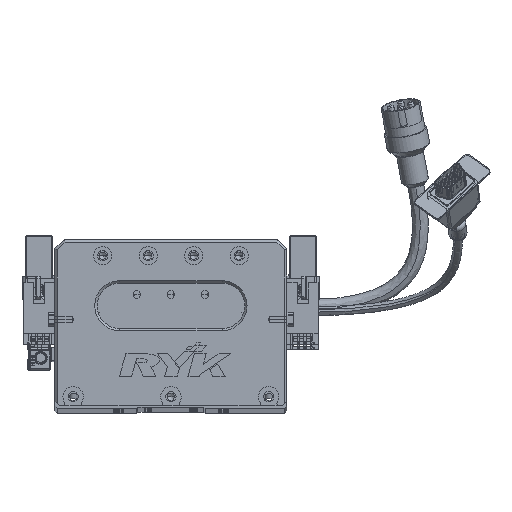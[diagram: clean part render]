
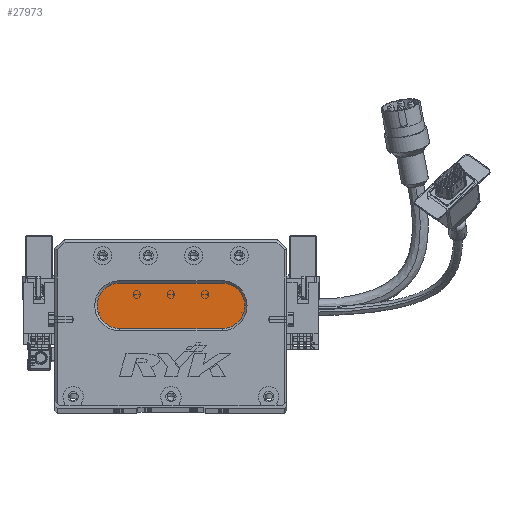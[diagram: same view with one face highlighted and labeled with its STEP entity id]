
A CAD part, top view. The second image highlights one B-rep face of the part: STEP entity #27973.
In plain terms, the highlighted planar face has unit normal (0, 0, 1) as drawn and (0, 0, -1) by its records, which use the part's own axes.
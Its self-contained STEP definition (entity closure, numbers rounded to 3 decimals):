
#2491 = ORIENTED_EDGE ( 'NONE', *, *, #64575, .T. ) ;
#3220 = EDGE_CURVE ( 'NONE', #54187, #25655, #37867, .T. ) ;
#3785 = CARTESIAN_POINT ( 'NONE',  ( 28.5, 54., 13. ) ) ;
#4208 = EDGE_CURVE ( 'NONE', #11865, #8628, #10377, .T. ) ;
#4753 = DIRECTION ( 'NONE',  ( -1., 0., 0. ) ) ;
#6201 = ORIENTED_EDGE ( 'NONE', *, *, #4208, .T. ) ;
#6649 = DIRECTION ( 'NONE',  ( -1., 0., 0. ) ) ;
#7263 = CARTESIAN_POINT ( 'NONE',  ( 18.5, 44., 13. ) ) ;
#8628 = VERTEX_POINT ( 'NONE', #7263 ) ;
#10377 = CIRCLE ( 'NONE', #56024, 10. ) ;
#10993 = CARTESIAN_POINT ( 'NONE',  ( 73.5, 34., 13. ) ) ;
#11865 = VERTEX_POINT ( 'NONE', #29756 ) ;
#12495 = CARTESIAN_POINT ( 'NONE',  ( 73.5, 44., 13. ) ) ;
#12564 = AXIS2_PLACEMENT_3D ( 'NONE', #57538, #52339, #12986 ) ;
#12986 = DIRECTION ( 'NONE',  ( -1., 0., 0. ) ) ;
#16668 = DIRECTION ( 'NONE',  ( -1., 0., 0. ) ) ;
#17178 = AXIS2_PLACEMENT_3D ( 'NONE', #38127, #32940, #4753 ) ;
#22729 = DIRECTION ( 'NONE',  ( 0., 0., -1. ) ) ;
#22792 = CIRCLE ( 'NONE', #12564, 10. ) ;
#23403 = EDGE_LOOP ( 'NONE', ( #48031, #2491, #6201, #25432, #64924 ) ) ;
#23715 = CARTESIAN_POINT ( 'NONE',  ( 28.5, 44., 13. ) ) ;
#25432 = ORIENTED_EDGE ( 'NONE', *, *, #71638, .T. ) ;
#25655 = VERTEX_POINT ( 'NONE', #56354 ) ;
#27973 = ADVANCED_FACE ( 'NONE', ( #35045 ), #61192, .T. ) ;
#29756 = CARTESIAN_POINT ( 'NONE',  ( 28.5, 34., 13. ) ) ;
#32940 = DIRECTION ( 'NONE',  ( 0., 0., -1. ) ) ;
#35045 = FACE_OUTER_BOUND ( 'NONE', #23403, .T. ) ;
#37756 = CARTESIAN_POINT ( 'NONE',  ( 73.5, 54., 13. ) ) ;
#37867 = CIRCLE ( 'NONE', #52654, 10. ) ;
#38127 = CARTESIAN_POINT ( 'NONE',  ( 73.5, 44., 13. ) ) ;
#40416 = EDGE_CURVE ( 'NONE', #69444, #54187, #70992, .T. ) ;
#40944 = DIRECTION ( 'NONE',  ( -1., 0., 0. ) ) ;
#41432 = DIRECTION ( 'NONE',  ( 0., 0., -1. ) ) ;
#44475 = VECTOR ( 'NONE', #49413, 1000. ) ;
#46643 = CARTESIAN_POINT ( 'NONE',  ( 73.5, 54., 13. ) ) ;
#48031 = ORIENTED_EDGE ( 'NONE', *, *, #3220, .T. ) ;
#49413 = DIRECTION ( 'NONE',  ( 1., 0., 0. ) ) ;
#52339 = DIRECTION ( 'NONE',  ( 0., 0., -1. ) ) ;
#52654 = AXIS2_PLACEMENT_3D ( 'NONE', #12495, #41432, #40944 ) ;
#54187 = VERTEX_POINT ( 'NONE', #46643 ) ;
#56024 = AXIS2_PLACEMENT_3D ( 'NONE', #23715, #22729, #6649 ) ;
#56354 = CARTESIAN_POINT ( 'NONE',  ( 73.5, 34., 13. ) ) ;
#57538 = CARTESIAN_POINT ( 'NONE',  ( 28.5, 44., 13. ) ) ;
#58259 = VECTOR ( 'NONE', #16668, 1000. ) ;
#61192 = PLANE ( 'NONE',  #17178 ) ;
#64575 = EDGE_CURVE ( 'NONE', #25655, #11865, #70588, .T. ) ;
#64924 = ORIENTED_EDGE ( 'NONE', *, *, #40416, .T. ) ;
#69444 = VERTEX_POINT ( 'NONE', #3785 ) ;
#70588 = LINE ( 'NONE', #10993, #58259 ) ;
#70992 = LINE ( 'NONE', #37756, #44475 ) ;
#71638 = EDGE_CURVE ( 'NONE', #8628, #69444, #22792, .T. ) ;
